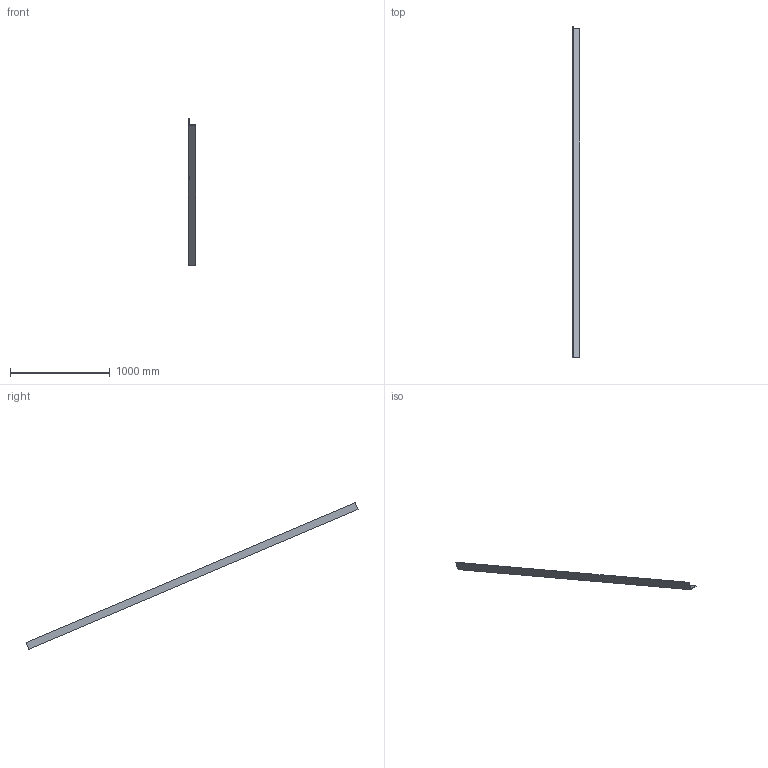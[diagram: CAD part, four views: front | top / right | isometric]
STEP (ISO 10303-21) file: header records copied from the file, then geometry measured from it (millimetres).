
FILE_DESCRIPTION(('Open CASCADE Model'),'2;1');
FILE_NAME('Open CASCADE Shape Model','2026-09-19T12:55:21',('Author'),( 'Open CASCADE'),'Open CASCADE STEP processor 7.9','Open CASCADE 7.9' ,'Unknown');
FILE_SCHEMA(('AUTOMOTIVE_DESIGN { 1 0 10303 214 1 1 1 1 }'));
Length unit declared in the file: millimetre
Products named in the file (1): Open CASCADE STEP translator 7.9 343
Bounding box: 76.2 x 3321.82 x 1470.12 mm (x, y, z)
Volume: 4868327.6 mm3; surface area: 1093090.8 mm2
Topology: 1 solids, 1 shells, 8 faces, 18 edges, 12 vertices
Faces by surface type: plane 8
Entity records: 466 total; most frequent: CARTESIAN_POINT 75, DIRECTION 72, LINE 54, VECTOR 54, ORIENTED_EDGE 36, PCURVE 36, DEFINITIONAL_REPRESENTATION 36, EDGE_CURVE 18
